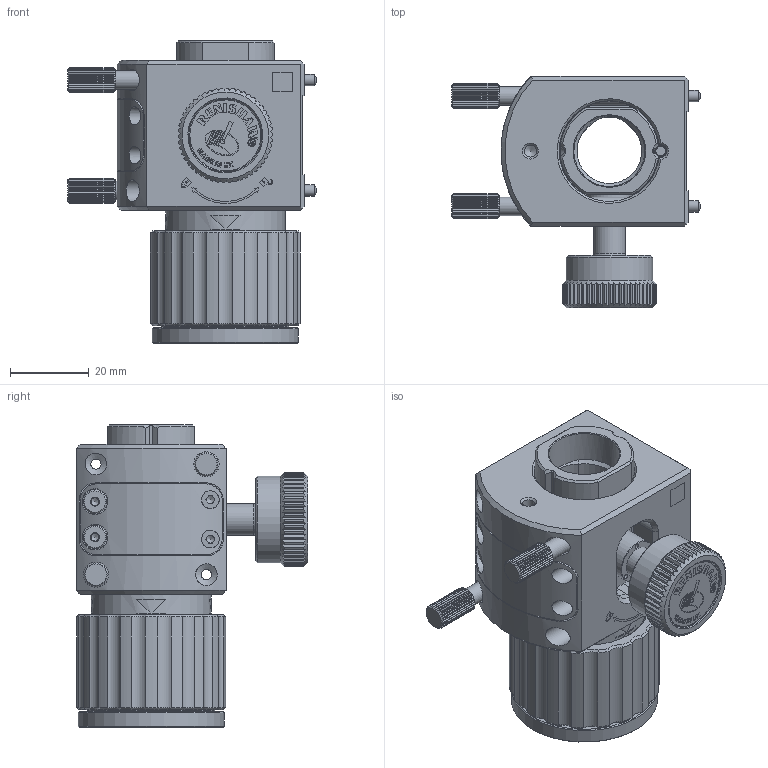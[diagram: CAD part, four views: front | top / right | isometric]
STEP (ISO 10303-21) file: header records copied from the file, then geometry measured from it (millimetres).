
FILE_DESCRIPTION(/* description */ (''),/* implementation_level */ '2;1');
FILE_NAME(/* name */ 'LA-9954-5500-15-A_VERTICAL TRANSLATION STAGE ASSY.stp',/* time_stamp */ '2025-11-19T09:07:05Z',/* author */ (''),/* organization */ (''),/* preprocessor_version */ 'ST-DEVELOPER v20',/* originating_system */ 'SIEMENS PLM Software NX2312.9162',/* authorisation */ '');
FILE_SCHEMA (('AUTOMOTIVE_DESIGN { 1 0 10303 214 3 1 1 1 }'));
Length unit declared in the file: millimetre
Products named in the file (1): 2086451-A
Bounding box: 63 x 58.69 x 76.7 mm (x, y, z)
Volume: 77334.5 mm3; surface area: 47965.3 mm2
Topology: 19 solids, 19 shells, 1346 faces, 4058 edges, 2860 vertices
Faces by surface type: plane 760, cylinder 310, cone 190, extrusion 71, torus 11, bspline 4
Full cylindrical faces by diameter (mm): 1.1 x3, 1.7 x7, 2 x6, 2.25 x2, 2.6 x8, 2.8 x3, 2.874 x4, 3 x3, 3.05 x1, 3.8 x3, 3.987 x2, 4 x4, 4.2 x2, 4.5 x2, 4.7 x2, 5 x2, 5.2 x1, 5.5 x7, 6 x2, 6.5 x2, 6.9 x1, 8 x1, 9.155 x1, 9.6 x1, 9.874 x1, 11.4 x1, 15.2 x1, 17.6 x1, 18 x4, 18.5 x1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
Entity records: 49841 total; most frequent: CARTESIAN_POINT 11271, ORIENTED_EDGE 7596, DIRECTION 6379, EDGE_CURVE 3798, VERTEX_POINT 2797, VECTOR 2301, LINE 2230, AXIS2_PLACEMENT_3D 2039
